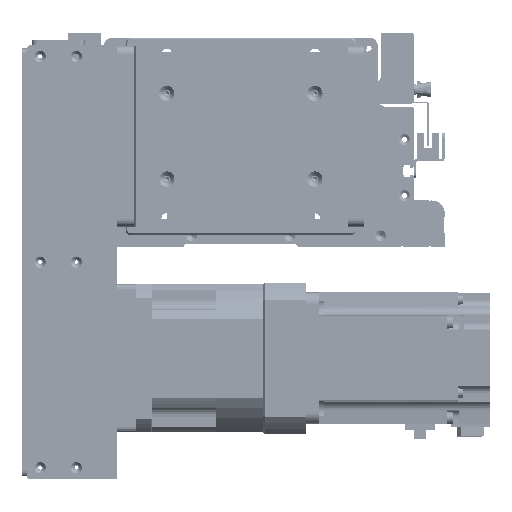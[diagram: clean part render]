
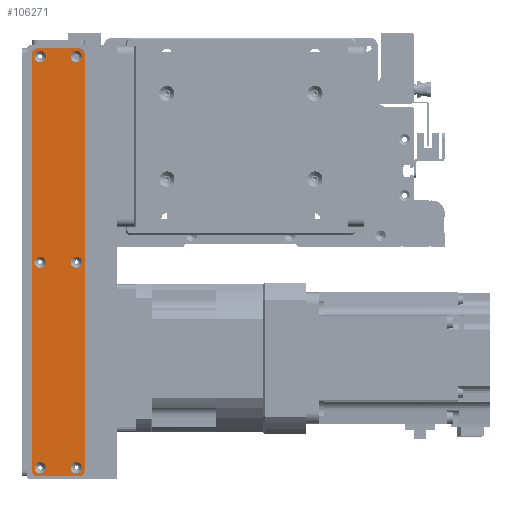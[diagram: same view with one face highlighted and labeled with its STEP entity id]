
A CAD part, front view. The second image highlights one B-rep face of the part: STEP entity #106271.
In plain terms, the highlighted planar face has unit normal (0, -1, 0).
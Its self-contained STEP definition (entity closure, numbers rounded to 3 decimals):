
#4229=FACE_BOUND('',#16019,.T.);
#4230=FACE_BOUND('',#16020,.T.);
#4231=FACE_BOUND('',#16021,.T.);
#4232=FACE_BOUND('',#16022,.T.);
#4233=FACE_BOUND('',#16023,.T.);
#4234=FACE_BOUND('',#16024,.T.);
#9685=FACE_OUTER_BOUND('',#16018,.T.);
#16018=EDGE_LOOP('',(#96660,#96661,#96662,#96663,#96664,#96665,#96666,#96667));
#16019=EDGE_LOOP('',(#96668));
#16020=EDGE_LOOP('',(#96669));
#16021=EDGE_LOOP('',(#96670));
#16022=EDGE_LOOP('',(#96671));
#16023=EDGE_LOOP('',(#96672));
#16024=EDGE_LOOP('',(#96673));
#18824=CIRCLE('',#115575,3.45);
#18827=CIRCLE('',#115580,3.45);
#18830=CIRCLE('',#115585,3.45);
#18833=CIRCLE('',#115590,3.45);
#18836=CIRCLE('',#115595,3.45);
#18839=CIRCLE('',#115600,3.45);
#18842=CIRCLE('',#115605,3.);
#18844=CIRCLE('',#115608,3.);
#18845=CIRCLE('',#115609,3.);
#18846=CIRCLE('',#115610,3.);
#30350=LINE('',#179125,#41882);
#30351=LINE('',#179129,#41883);
#30352=LINE('',#179133,#41884);
#30353=LINE('',#179136,#41885);
#41882=VECTOR('',#144207,10.);
#41883=VECTOR('',#144210,10.);
#41884=VECTOR('',#144213,10.);
#41885=VECTOR('',#144216,10.);
#51844=VERTEX_POINT('',#179055);
#51847=VERTEX_POINT('',#179065);
#51850=VERTEX_POINT('',#179075);
#51853=VERTEX_POINT('',#179085);
#51856=VERTEX_POINT('',#179095);
#51859=VERTEX_POINT('',#179105);
#51862=VERTEX_POINT('',#179115);
#51863=VERTEX_POINT('',#179116);
#51866=VERTEX_POINT('',#179124);
#51867=VERTEX_POINT('',#179126);
#51868=VERTEX_POINT('',#179128);
#51869=VERTEX_POINT('',#179130);
#51870=VERTEX_POINT('',#179132);
#51871=VERTEX_POINT('',#179134);
#66784=EDGE_CURVE('',#51844,#51844,#18824,.T.);
#66789=EDGE_CURVE('',#51847,#51847,#18827,.T.);
#66794=EDGE_CURVE('',#51850,#51850,#18830,.T.);
#66799=EDGE_CURVE('',#51853,#51853,#18833,.T.);
#66804=EDGE_CURVE('',#51856,#51856,#18836,.T.);
#66809=EDGE_CURVE('',#51859,#51859,#18839,.T.);
#66814=EDGE_CURVE('',#51862,#51863,#18842,.T.);
#66818=EDGE_CURVE('',#51862,#51866,#30350,.T.);
#66819=EDGE_CURVE('',#51867,#51866,#18844,.T.);
#66820=EDGE_CURVE('',#51867,#51868,#30351,.T.);
#66821=EDGE_CURVE('',#51869,#51868,#18845,.T.);
#66822=EDGE_CURVE('',#51869,#51870,#30352,.T.);
#66823=EDGE_CURVE('',#51871,#51870,#18846,.T.);
#66824=EDGE_CURVE('',#51871,#51863,#30353,.T.);
#96660=ORIENTED_EDGE('',*,*,#66814,.F.);
#96661=ORIENTED_EDGE('',*,*,#66818,.T.);
#96662=ORIENTED_EDGE('',*,*,#66819,.F.);
#96663=ORIENTED_EDGE('',*,*,#66820,.T.);
#96664=ORIENTED_EDGE('',*,*,#66821,.F.);
#96665=ORIENTED_EDGE('',*,*,#66822,.T.);
#96666=ORIENTED_EDGE('',*,*,#66823,.F.);
#96667=ORIENTED_EDGE('',*,*,#66824,.T.);
#96668=ORIENTED_EDGE('',*,*,#66784,.T.);
#96669=ORIENTED_EDGE('',*,*,#66789,.T.);
#96670=ORIENTED_EDGE('',*,*,#66794,.T.);
#96671=ORIENTED_EDGE('',*,*,#66799,.T.);
#96672=ORIENTED_EDGE('',*,*,#66804,.T.);
#96673=ORIENTED_EDGE('',*,*,#66809,.T.);
#100831=PLANE('',#115607);
#106271=ADVANCED_FACE('',(#9685,#4229,#4230,#4231,#4232,#4233,#4234),#100831,
 .T.);
#115575=AXIS2_PLACEMENT_3D('',#179056,#144127,#144128);
#115580=AXIS2_PLACEMENT_3D('',#179066,#144139,#144140);
#115585=AXIS2_PLACEMENT_3D('',#179076,#144151,#144152);
#115590=AXIS2_PLACEMENT_3D('',#179086,#144163,#144164);
#115595=AXIS2_PLACEMENT_3D('',#179096,#144175,#144176);
#115600=AXIS2_PLACEMENT_3D('',#179106,#144187,#144188);
#115605=AXIS2_PLACEMENT_3D('',#179117,#144199,#144200);
#115607=AXIS2_PLACEMENT_3D('',#179123,#144205,#144206);
#115608=AXIS2_PLACEMENT_3D('',#179127,#144208,#144209);
#115609=AXIS2_PLACEMENT_3D('',#179131,#144211,#144212);
#115610=AXIS2_PLACEMENT_3D('',#179135,#144214,#144215);
#144127=DIRECTION('center_axis',(0.,1.,0.));
#144128=DIRECTION('ref_axis',(1.,0.,0.));
#144139=DIRECTION('center_axis',(0.,1.,0.));
#144140=DIRECTION('ref_axis',(1.,0.,0.));
#144151=DIRECTION('center_axis',(0.,1.,0.));
#144152=DIRECTION('ref_axis',(1.,0.,0.));
#144163=DIRECTION('center_axis',(0.,1.,0.));
#144164=DIRECTION('ref_axis',(1.,0.,0.));
#144175=DIRECTION('center_axis',(0.,1.,0.));
#144176=DIRECTION('ref_axis',(1.,0.,0.));
#144187=DIRECTION('center_axis',(0.,1.,0.));
#144188=DIRECTION('ref_axis',(1.,0.,0.));
#144199=DIRECTION('center_axis',(0.,1.,0.));
#144200=DIRECTION('ref_axis',(-0.707,0.,0.707));
#144205=DIRECTION('center_axis',(0.,-1.,0.));
#144206=DIRECTION('ref_axis',(0.,0.,-1.));
#144207=DIRECTION('',(0.,0.,-1.));
#144208=DIRECTION('center_axis',(0.,1.,0.));
#144209=DIRECTION('ref_axis',(-0.707,0.,-0.707));
#144210=DIRECTION('',(1.,0.,0.));
#144211=DIRECTION('center_axis',(0.,1.,0.));
#144212=DIRECTION('ref_axis',(0.707,0.,-0.707));
#144213=DIRECTION('',(0.,0.,1.));
#144214=DIRECTION('center_axis',(0.,1.,0.));
#144215=DIRECTION('ref_axis',(0.707,0.,0.707));
#144216=DIRECTION('',(-1.,0.,0.));
#179055=CARTESIAN_POINT('',(121.55,-1.5,11.));
#179056=CARTESIAN_POINT('Origin',(125.,-1.5,11.));
#179065=CARTESIAN_POINT('',(-3.45,-1.5,11.));
#179066=CARTESIAN_POINT('Origin',(0.,-1.5,11.));
#179075=CARTESIAN_POINT('',(-128.45,-1.5,11.));
#179076=CARTESIAN_POINT('Origin',(-125.,-1.5,11.));
#179085=CARTESIAN_POINT('',(-128.45,-1.5,-11.));
#179086=CARTESIAN_POINT('Origin',(-125.,-1.5,-11.));
#179095=CARTESIAN_POINT('',(-3.45,-1.5,-11.));
#179096=CARTESIAN_POINT('Origin',(0.,-1.5,-11.));
#179105=CARTESIAN_POINT('',(121.55,-1.5,-11.));
#179106=CARTESIAN_POINT('Origin',(125.,-1.5,-11.));
#179115=CARTESIAN_POINT('',(-130.,-1.5,13.));
#179116=CARTESIAN_POINT('',(-127.,-1.5,16.));
#179117=CARTESIAN_POINT('Origin',(-127.,-1.5,13.));
#179123=CARTESIAN_POINT('Origin',(0.,-1.5,0.));
#179124=CARTESIAN_POINT('',(-130.,-1.5,-13.));
#179125=CARTESIAN_POINT('',(-130.,-1.5,16.));
#179126=CARTESIAN_POINT('',(-127.,-1.5,-16.));
#179127=CARTESIAN_POINT('Origin',(-127.,-1.5,-13.));
#179128=CARTESIAN_POINT('',(127.,-1.5,-16.));
#179129=CARTESIAN_POINT('',(-130.,-1.5,-16.));
#179130=CARTESIAN_POINT('',(130.,-1.5,-13.));
#179131=CARTESIAN_POINT('Origin',(127.,-1.5,-13.));
#179132=CARTESIAN_POINT('',(130.,-1.5,13.));
#179133=CARTESIAN_POINT('',(130.,-1.5,-16.));
#179134=CARTESIAN_POINT('',(127.,-1.5,16.));
#179135=CARTESIAN_POINT('Origin',(127.,-1.5,13.));
#179136=CARTESIAN_POINT('',(130.,-1.5,16.));
